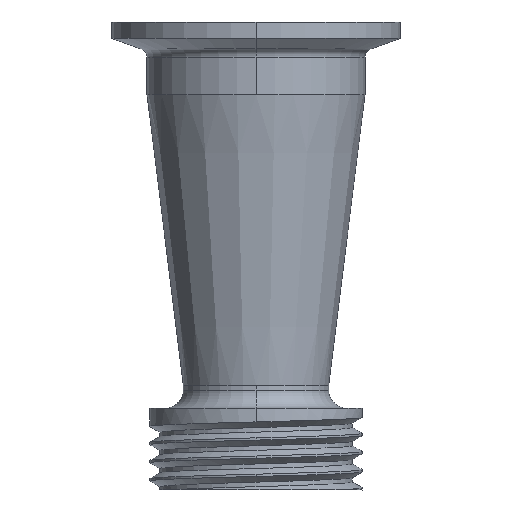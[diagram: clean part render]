
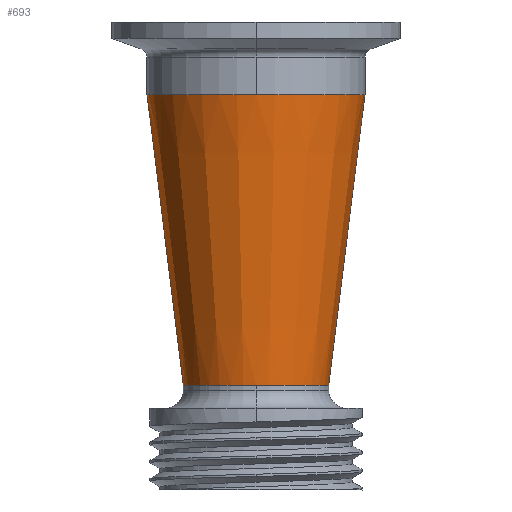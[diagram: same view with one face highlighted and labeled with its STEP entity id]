
A CAD part, front view. The second image highlights one B-rep face of the part: STEP entity #693.
In plain terms, the highlighted conical face has half-angle 7.125 degrees and reference radius 12.7 mm.
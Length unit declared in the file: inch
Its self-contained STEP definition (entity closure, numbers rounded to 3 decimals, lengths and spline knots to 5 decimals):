
#31 = VECTOR ( 'NONE', #184, 39.37008 ) ;
#66 = CIRCLE ( 'NONE', #2687, 0.75 ) ;
#92 = DIRECTION ( 'NONE',  ( 0., 0., 1. ) ) ;
#184 = DIRECTION ( 'NONE',  ( -0.124, 0., 0.992 ) ) ;
#259 = EDGE_LOOP ( 'NONE', ( #696, #2414, #1343, #2591 ) ) ;
#266 = EDGE_CURVE ( 'NONE', #899, #1657, #66, .T. ) ;
#426 = DIRECTION ( 'NONE',  ( 0., 0., 1. ) ) ;
#504 = CARTESIAN_POINT ( 'NONE',  ( 0.5, 0., -2. ) ) ;
#528 = EDGE_CURVE ( 'NONE', #1696, #1705, #1753, .T. ) ;
#545 = AXIS2_PLACEMENT_3D ( 'NONE', #1164, #92, #1781 ) ;
#693 = ADVANCED_FACE ( 'NONE', ( #2003 ), #1308, .T. ) ;
#696 = ORIENTED_EDGE ( 'NONE', *, *, #1565, .F. ) ;
#820 = EDGE_CURVE ( 'NONE', #1705, #1657, #1317, .T. ) ;
#837 = LINE ( 'NONE', #2031, #31 ) ;
#899 = VERTEX_POINT ( 'NONE', #1746 ) ;
#907 = CARTESIAN_POINT ( 'NONE',  ( 0., 0., 0. ) ) ;
#917 = DIRECTION ( 'NONE',  ( 0.124, 0., 0.992 ) ) ;
#939 = CARTESIAN_POINT ( 'NONE',  ( 0.5, 0., -2. ) ) ;
#1046 = VECTOR ( 'NONE', #917, 39.37008 ) ;
#1164 = CARTESIAN_POINT ( 'NONE',  ( 0., 0., -2. ) ) ;
#1308 = CONICAL_SURFACE ( 'NONE', #545, 0.5, 0.124 ) ;
#1317 = LINE ( 'NONE', #504, #1046 ) ;
#1336 = CARTESIAN_POINT ( 'NONE',  ( 0.75, 0., 0. ) ) ;
#1343 = ORIENTED_EDGE ( 'NONE', *, *, #820, .T. ) ;
#1565 = EDGE_CURVE ( 'NONE', #1696, #899, #837, .T. ) ;
#1629 = CARTESIAN_POINT ( 'NONE',  ( 0., 0., -2. ) ) ;
#1657 = VERTEX_POINT ( 'NONE', #1336 ) ;
#1696 = VERTEX_POINT ( 'NONE', #2441 ) ;
#1705 = VERTEX_POINT ( 'NONE', #939 ) ;
#1746 = CARTESIAN_POINT ( 'NONE',  ( -0.75, 0., 0. ) ) ;
#1751 = DIRECTION ( 'NONE',  ( 1., 0., 0. ) ) ;
#1753 = CIRCLE ( 'NONE', #1980, 0.5 ) ;
#1781 = DIRECTION ( 'NONE',  ( 1., 0., 0. ) ) ;
#1980 = AXIS2_PLACEMENT_3D ( 'NONE', #1629, #426, #2154 ) ;
#2003 = FACE_OUTER_BOUND ( 'NONE', #259, .T. ) ;
#2031 = CARTESIAN_POINT ( 'NONE',  ( -0.5, 0., -2. ) ) ;
#2154 = DIRECTION ( 'NONE',  ( 1., 0., 0. ) ) ;
#2210 = DIRECTION ( 'NONE',  ( 0., 0., 1. ) ) ;
#2414 = ORIENTED_EDGE ( 'NONE', *, *, #528, .T. ) ;
#2441 = CARTESIAN_POINT ( 'NONE',  ( -0.5, 0., -2. ) ) ;
#2591 = ORIENTED_EDGE ( 'NONE', *, *, #266, .F. ) ;
#2687 = AXIS2_PLACEMENT_3D ( 'NONE', #907, #2210, #1751 ) ;
